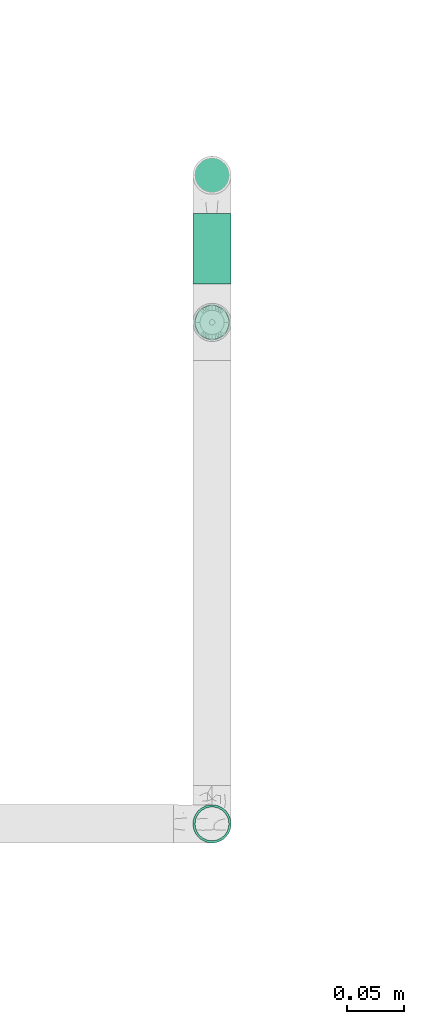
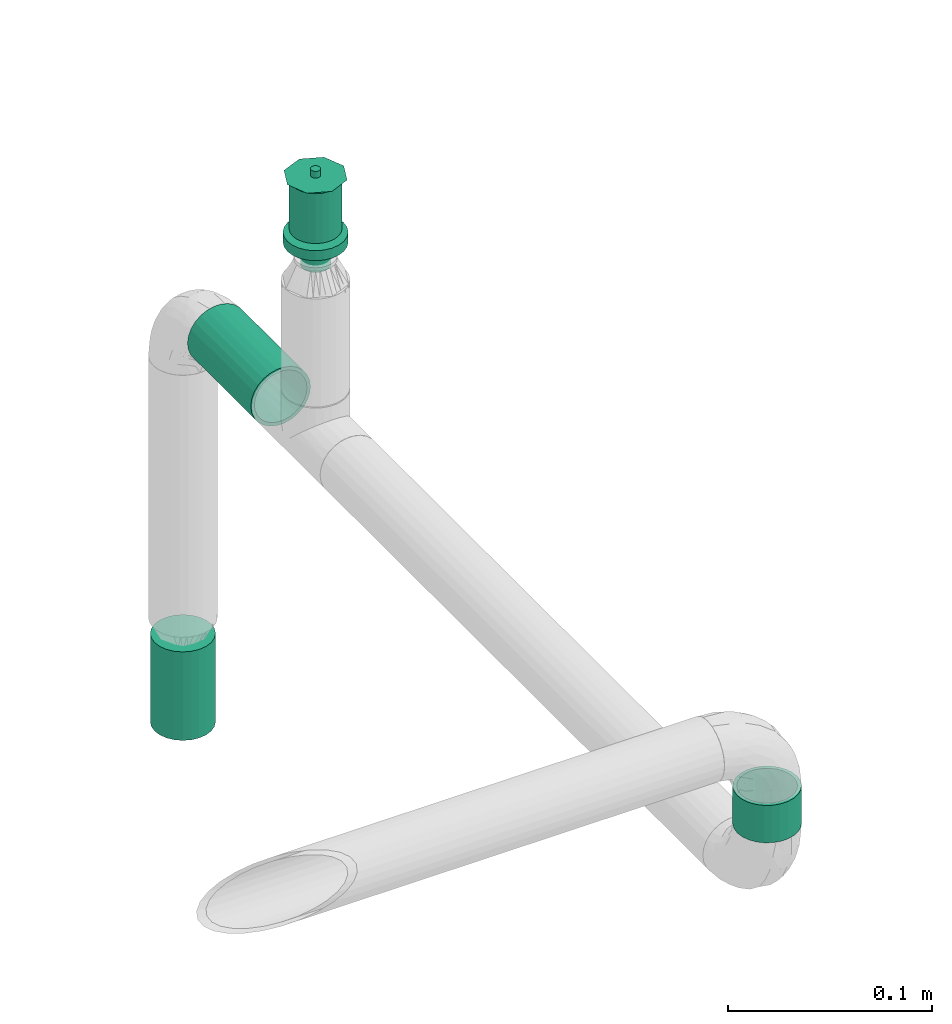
# One storey, part 116 of 157: 2 flow segments, 2 flow terminals.
"""IFC2X3 building model written with IfcOpenShell, lengths in millimetres."""

import ifcopenshell
import ifcopenshell.guid

model = None  # the IFC model being written
_history = None  # IfcOwnerHistory: only IFC2X3 demands one
_inside = {}  # id of a spatial element -> (the spatial element, [elements in it])
_under = {}  # id of a project, library or spatial element -> (it, [spatial elements below it])
_declared = {}  # id of a project -> (the project, [libraries it declares])
_typed = {}  # id of a type object -> (the type object, [elements of that type])
_made_of = {}  # id of a material, layer set ... -> (it, [elements and type objects made of it])


def new_model(schema):
    """Start an empty IFC model of exactly this schema.

    Asked for "IFC4X3", IfcOpenShell would pick the latest addendum, in which some entities
    have other attributes; the version numbers below select the first issue.
    IFC2X3 requires an IfcOwnerHistory on every rooted entity: one is made here for all.
    """
    global model, _history
    if schema == "IFC4X3":
        model = ifcopenshell.file(schema_version=(4, 3, 0, 0))
    else:
        model = ifcopenshell.file(schema=schema)
    _inside.clear()
    _under.clear()
    _declared.clear()
    _typed.clear()
    _made_of.clear()
    _history = None
    if model.schema == "IFC2X3":
        org = make("IfcOrganization", Name="unknown")
        user = make(
            "IfcPersonAndOrganization",
            ThePerson=make("IfcPerson", FamilyName="unknown"),
            TheOrganization=org,
        )
        app = make(
            "IfcApplication",
            ApplicationDeveloper=org,
            Version="unknown",
            ApplicationFullName="unknown",
            ApplicationIdentifier="unknown",
        )
        _history = make(
            "IfcOwnerHistory",
            OwningUser=user,
            OwningApplication=app,
            ChangeAction="ADDED",
            CreationDate=0,
        )
    return model


def make(cls, **values):
    """One entity of the class cls with the attributes given. An attribute that is None is left unset."""
    return model.create_entity(
        cls, **{name: value for name, value in values.items() if value is not None}
    )


def entity(cls, *values):
    """Any entity or typed value of the class cls, its attributes in the order of the schema. None: left unset."""
    e = model.create_entity(cls)
    for i, value in enumerate(values):
        if value is not None:
            e[i] = value
    return e


def rooted(cls, **values):
    """An entity with a GlobalId (a new one), such as an element, a storey or a relation."""
    return make(cls, GlobalId=ifcopenshell.guid.new(), OwnerHistory=_history, **values)


def si_unit(unit_type, name, prefix=None):
    """IfcSIUnit, for example si_unit("LENGTHUNIT", "METRE", prefix="MILLI")."""
    return make("IfcSIUnit", UnitType=unit_type, Prefix=prefix, Name=name)


def converted_unit(unit_type, name, factor, base, dimensions=None, offset=None):
    """IfcConversionBasedUnit, such as the inch: factor (a typed value) times the base unit."""
    return make(
        "IfcConversionBasedUnit"
        if offset is None
        else "IfcConversionBasedUnitWithOffset",
        ConversionOffset=offset,
        Dimensions=None
        if dimensions is None
        else entity("IfcDimensionalExponents", *dimensions),
        UnitType=unit_type,
        Name=name,
        ConversionFactor=make(
            "IfcMeasureWithUnit", ValueComponent=factor, UnitComponent=base
        ),
    )


def derived_unit(unit_type, elements):
    """IfcDerivedUnit: a product of units, each with its exponent."""
    return make(
        "IfcDerivedUnit",
        Elements=[
            make("IfcDerivedUnitElement", Unit=unit, Exponent=power)
            for unit, power in elements
        ],
        UnitType=unit_type,
    )


def assignment(units):
    """IfcUnitAssignment: the units of a project."""
    return None if units is None else make("IfcUnitAssignment", Units=units)


def point(xyz):
    """IfcCartesianPoint."""
    return None if xyz is None else make("IfcCartesianPoint", Coordinates=xyz)


def direction(xyz):
    """IfcDirection."""
    return None if xyz is None else make("IfcDirection", DirectionRatios=xyz)


def frame(location, z_axis=None, x_axis=None):
    """IfcAxis2Placement3D, a coordinate frame: its origin and axes. An axis left out is left unset."""
    return make(
        "IfcAxis2Placement3D",
        Location=point(location),
        Axis=direction(z_axis),
        RefDirection=direction(x_axis),
    )


def frame_2d(location, x_axis=None):
    """IfcAxis2Placement2D, a coordinate frame in the plane: its origin and x axis."""
    return make(
        "IfcAxis2Placement2D", Location=point(location), RefDirection=direction(x_axis)
    )


def origin_with_axes():
    """The frame at (0, 0, 0) with the z axis (0, 0, 1) and the x axis (1, 0, 0) written out."""
    return frame((0.0, 0.0, 0.0), z_axis=(0.0, 0.0, 1.0), x_axis=(1.0, 0.0, 0.0))


def origin_2d_with_axis():
    """The frame at (0, 0) in the plane with the x axis (1, 0) written out."""
    return frame_2d((0.0, 0.0), x_axis=(1.0, 0.0))


def place(relative_to, where):
    """IfcLocalPlacement: puts the frame where relative to a parent placement (None: the world)."""
    return make(
        "IfcLocalPlacement", PlacementRelTo=relative_to, RelativePlacement=where
    )


def context(
    kind, dimensions, precision=None, world=None, true_north=None, identifier=None
):
    """IfcGeometricRepresentationContext, for example the 3D "Model" context."""
    return make(
        "IfcGeometricRepresentationContext",
        ContextIdentifier=identifier,
        ContextType=kind,
        CoordinateSpaceDimension=dimensions,
        Precision=precision,
        WorldCoordinateSystem=world,
        TrueNorth=true_north,
    )


def subcontext(parent, identifier, kind, view, scale=None):
    """IfcGeometricRepresentationSubContext, for example "Body" below "Model"."""
    return make(
        "IfcGeometricRepresentationSubContext",
        ContextIdentifier=identifier,
        ContextType=kind,
        ParentContext=parent,
        TargetScale=scale,
        TargetView=view,
    )


def project(units=None, contexts=None):
    """IfcProject with its units and contexts."""
    return rooted(
        "IfcProject",
        Name="project",
        RepresentationContexts=contexts,
        UnitsInContext=assignment(units),
    )


def spatial(cls, under=None, at=None, **own):
    """A site, building, storey or space (cls), placed at a placement, below another one or the project."""
    s = rooted(cls, ObjectPlacement=at, **own)
    if under is not None:
        _under.setdefault(under.id(), (under, []))[1].append(s)
    return s


def profile(cls, at=None, kind="AREA", **sizes):
    """A parametric profile (cls). Its sizes go by their IFC names, for example OverallWidth=200.0."""
    return make(cls, ProfileType=kind, Position=at, **sizes)


def hollow_circle(**sizes):
    """IfcCircleHollowProfileDef."""
    return profile("IfcCircleHollowProfileDef", **sizes)


def extrude(swept, where, along, depth):
    """IfcExtrudedAreaSolid: the profile swept, set in the frame where, extruded along a direction by depth."""
    return make(
        "IfcExtrudedAreaSolid",
        SweptArea=swept,
        Position=where,
        ExtrudedDirection=direction(along),
        Depth=depth,
    )


def faces_of(points, faces, orient=None, outer=None):
    """IfcFace entities. A face is a list of loops; a loop is a list of indices into points, from 0.

    orient and outer hold one flag for each loop. By default every Orientation is true, the
    first loop of a face is its IfcFaceOuterBound and the others are IfcFaceBound.
    """
    made = []
    for i, loops in enumerate(faces):
        bounds = []
        for j, loop in enumerate(loops):
            is_outer = j == 0 if outer is None else outer[i][j]
            bounds.append(
                make(
                    "IfcFaceOuterBound" if is_outer else "IfcFaceBound",
                    Bound=make("IfcPolyLoop", Polygon=[points[k] for k in loop]),
                    Orientation=True if orient is None else orient[i][j],
                )
            )
        made.append(make("IfcFace", Bounds=bounds))
    return made


def open_shell(faces, orient=None, outer=None):
    """The faces of one IfcOpenShell. surface_model builds it on its shared points."""
    return ("IfcOpenShell", faces, orient, outer)


def surface_model(cls, points, shells):
    """IfcFaceBasedSurfaceModel or IfcShellBasedSurfaceModel (cls): surfaces that need not close."""
    shared = [point(p) for p in points]
    made = [make(c, CfsFaces=faces_of(shared, fs, o, b)) for c, fs, o, b in shells]
    if cls == "IfcFaceBasedSurfaceModel":
        return make(cls, FbsmFaces=made)
    return make(cls, SbsmBoundary=made)


def shape(context_of_items, identifier, shape_type, items):
    """IfcShapeRepresentation: the items that make up one representation, for example the "Body"."""
    return make(
        "IfcShapeRepresentation",
        ContextOfItems=context_of_items,
        RepresentationIdentifier=identifier,
        RepresentationType=shape_type,
        Items=items,
    )


def source(mapping_origin, context_of_items, identifier, shape_type, items):
    """IfcRepresentationMap: a shape defined once, which mapped items show again and again."""
    return make(
        "IfcRepresentationMap",
        MappingOrigin=mapping_origin,
        MappedRepresentation=shape(context_of_items, identifier, shape_type, items),
    )


def transform(
    local_origin,
    x_axis=None,
    y_axis=None,
    z_axis=None,
    scale=None,
    scale2=None,
    scale3=None,
    uniform=True,
):
    """IfcCartesianTransformationOperator3D, or its non-uniform kind. x_axis, y_axis, z_axis: its Axis1, 2, 3."""
    if uniform:
        return make(
            "IfcCartesianTransformationOperator3D",
            Axis1=direction(x_axis),
            Axis2=direction(y_axis),
            LocalOrigin=point(local_origin),
            Scale=scale,
            Axis3=direction(z_axis),
        )
    return make(
        "IfcCartesianTransformationOperator3DnonUniform",
        Axis1=direction(x_axis),
        Axis2=direction(y_axis),
        LocalOrigin=point(local_origin),
        Scale=scale,
        Axis3=direction(z_axis),
        Scale2=scale2,
        Scale3=scale3,
    )


def mapped(mapping_source, mapping_target):
    """IfcMappedItem: shows the shape of a source again, moved by a transform."""
    return make(
        "IfcMappedItem", MappingSource=mapping_source, MappingTarget=mapping_target
    )


def made_of(thing, what):
    """Note that an element or type object is made of a material, layer set ...; save() writes the relation."""
    if what is not None:
        _made_of.setdefault(what.id(), (what, []))[1].append(thing)
    return thing


def type_object(cls, material=None, **own):
    """A type object (cls), such as IfcWallType, which elements share."""
    return made_of(rooted(cls, **own), material)


def element(
    cls,
    number,
    at=None,
    inside=None,
    cuts=None,
    type_object=None,
    material=None,
    context=None,
    identifier="Body",
    shape_type=None,
    held_by="IfcProductDefinitionShape",
    body=None,
    shapes=None,
    **own,
):
    """One element of the class cls, such as IfcWall. Its Tag is "e" and its number.

    at: its placement. inside: the storey or other place that contains it. cuts: it is an
    opening in that element (IfcRelVoidsElement). A single representation is given by context,
    identifier, shape_type and body (its items); several are given by shapes. held_by: the class
    of the entity that holds the representations. save() writes the other relations.
    """
    e = rooted(cls, Tag="e%d" % number, ObjectPlacement=at, **own)
    if body is not None:
        shapes = [shape(context, identifier, shape_type, body)]
    if shapes is not None:
        e.Representation = make(held_by, Representations=shapes)
    if inside is not None:
        _inside.setdefault(inside.id(), (inside, []))[1].append(e)
    if cuts is not None:
        rooted(
            "IfcRelVoidsElement", RelatingBuildingElement=cuts, RelatedOpeningElement=e
        )
    if type_object is not None:
        _typed.setdefault(type_object.id(), (type_object, []))[1].append(e)
    return made_of(e, material)


def aggregate(whole, parts):
    """IfcRelAggregates: a whole, such as a stair, and the parts it consists of."""
    return rooted("IfcRelAggregates", RelatingObject=whole, RelatedObjects=parts)


def save(model, path):
    """Write the relations noted so far, then the file.

    IfcRelAggregates (storeys below a building ...), IfcRelContainedInSpatialStructure (elements
    in a storey), IfcRelDefinesByType, IfcRelAssociatesMaterial and IfcRelDeclares: one each for
    every whole, place, type object, material and project.
    """
    for whole, parts in _under.values():
        aggregate(whole, parts)
    for where, things in _inside.values():
        rooted(
            "IfcRelContainedInSpatialStructure",
            RelatedElements=things,
            RelatingStructure=where,
        )
    for kind, things in _typed.values():
        rooted("IfcRelDefinesByType", RelatedObjects=things, RelatingType=kind)
    for what, things in _made_of.values():
        rooted("IfcRelAssociatesMaterial", RelatedObjects=things, RelatingMaterial=what)
    for by, libraries in _declared.values():
        rooted("IfcRelDeclares", RelatingContext=by, RelatedDefinitions=libraries)
    model.write(path)


model = new_model("IFC2X3")

# Units and contexts
model_context = context("Model", 3, precision=0.01, world=frame((0.0, 4.29681676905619e-09, 0.0)), true_north=direction((4.01073788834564e-13, 1.0)))
plan_context = context("Plan", 3, precision=0.01, world=frame((0.0, 4.29681676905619e-09, 0.0)), true_north=direction((4.01073788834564e-13, 1.0)))
body_context = subcontext(model_context, "Body", "Model", "MODEL_VIEW")
ifc_project = project(units=[converted_unit("PLANEANGLEUNIT", "DEGREE", entity("IfcPositiveLengthMeasure", 0.0174532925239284), si_unit("PLANEANGLEUNIT", "RADIAN"), dimensions=[0, 0, 0, 0, 0, 0, 0]), si_unit("AREAUNIT", "SQUARE_METRE"), si_unit("LENGTHUNIT", "METRE", prefix="MILLI"), si_unit("MASSUNIT", "GRAM", prefix="KILO"), si_unit("POWERUNIT", "WATT"), si_unit("PRESSUREUNIT", "PASCAL"), si_unit("FORCEUNIT", "NEWTON", prefix="KILO"), si_unit("ELECTRICCURRENTUNIT", "AMPERE"), si_unit("THERMODYNAMICTEMPERATUREUNIT", "DEGREE_CELSIUS"), si_unit("TIMEUNIT", "SECOND"), si_unit("VOLUMEUNIT", "CUBIC_METRE"), derived_unit("LINEARVELOCITYUNIT", [(si_unit("LENGTHUNIT", "METRE"), 1), (si_unit("TIMEUNIT", "SECOND"), -1)]), derived_unit("VOLUMETRICFLOWRATEUNIT", [(si_unit("VOLUMEUNIT", "CUBIC_METRE"), 1), (si_unit("TIMEUNIT", "SECOND"), -1)]), derived_unit("THERMALTRANSMITTANCEUNIT", [(si_unit("POWERUNIT", "WATT"), 1), (si_unit("THERMODYNAMICTEMPERATUREUNIT", "KELVIN"), -1), (si_unit("AREAUNIT", "SQUARE_METRE"), -1)])], contexts=[model_context, plan_context])

# Site, building, storey
site_placement = place(None, frame((0.0, -4.29681676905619e-09, 0.0), z_axis=(0.0, 0.0, 1.0), x_axis=(1.0, 0.0, 0.0)))
site = spatial("IfcSite", under=ifc_project, at=site_placement, CompositionType="ELEMENT")
building_placement = place(site_placement, frame((0.0, 4.29681676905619e-09, 0.0), z_axis=(0.0, 0.0, 1.0), x_axis=(1.0, 0.0, 0.0)))
building = spatial("IfcBuilding", under=site, at=building_placement, Name="mc-building", CompositionType="ELEMENT")
storey_placement = place(building_placement, frame((0.0, 0.0, 204000.0), z_axis=(0.0, 0.0, 1.0), x_axis=(1.0, 0.0, 0.0)))
storey = spatial("IfcBuildingStorey", under=building, at=storey_placement, Name="Nivå D", CompositionType="ELEMENT", Elevation=204000.0)

# Flow segments
pipe_segment_type = type_object("IfcPipeSegmentType", Name="Stålrør normaltykke", PredefinedType="RIGIDSEGMENT")
shared_shape_1 = source(origin_with_axes(), body_context, "Body", "SweptSolid", [
    extrude(hollow_circle(Radius=16.9, WallThickness=2.0, at=origin_2d_with_axis()), frame((0.0, 0.0, 0.0), z_axis=(1.0, 0.0, 0.0), x_axis=(0.0, 1.0, 0.0)), (0.0, 0.0, 1.0), 22.4),
])
flow_segment_1_placement = place(storey_placement, frame((524499.91685, 416026.97024, 2656.20000000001), z_axis=(0.0, 1.0, 0.0), x_axis=(0.0, 0.0, -1.0)))
element("IfcFlowSegment", 1, at=flow_segment_1_placement, inside=storey, type_object=pipe_segment_type, Name="Stålrør normaltykke", context=body_context, shape_type="MappedRepresentation", body=[
    mapped(shared_shape_1, transform((0.0, 0.0, 0.0), scale=1.0)),
])
shared_shape_2 = source(origin_with_axes(), body_context, "Body", "SweptSolid", [
    extrude(hollow_circle(Radius=16.9, WallThickness=2.0, at=origin_2d_with_axis()), frame((0.0, 0.0, 0.0), z_axis=(1.0, 0.0, 0.0), x_axis=(0.0, 1.0, 0.0)), (0.0, 0.0, 1.0), 62.1),
])
flow_segment_2_placement = place(storey_placement, frame((524499.91685, 416566.2, 2600.0), z_axis=(0.0, 0.0, 1.0), x_axis=(0.0, -1.0, 0.0)))
element("IfcFlowSegment", 2, at=flow_segment_2_placement, inside=storey, type_object=pipe_segment_type, Name="Stålrør normaltykke", context=body_context, shape_type="MappedRepresentation", body=[
    mapped(shared_shape_2, transform((0.0, 0.0, 0.0), scale=1.0)),
])

# Flow terminals
fire_suppression_terminal_type_1 = type_object("IfcFireSuppressionTerminalType", Name="SP-15-K80-68DGR-STD-HIMLING", PredefinedType="NOTDEFINED")
shared_shape_3 = source(origin_with_axes(), body_context, "Body", "SurfaceModel", [
    surface_model("IfcShellBasedSurfaceModel", [(4.1411, -15.45481, 53.0), (8.0, -13.85641, 53.0), (11.31371, -11.31371, 53.0), (-8.0, -13.85641, 53.0), (15.45481, -4.1411, 53.0), (16.0, 0.0, 53.0), (13.85641, -8.0, 53.0), (0.0, -16.0, 53.0), (-4.1411, -15.45481, 53.0), (-13.85641, -8.0, 53.0), (-11.31371, -11.31371, 53.0), (-15.45481, -4.1411, 53.0), (15.45481, 4.1411, 53.0), (13.85641, 8.0, 53.0), (11.31371, 11.31371, 53.0), (-4.1411, 15.45481, 53.0), (8.0, 13.85641, 53.0), (4.1411, 15.45481, 53.0), (0.0, 16.0, 53.0), (-13.85641, 8.0, 53.0), (-15.45481, 4.1411, 53.0), (-16.0, 0.0, 53.0), (-11.31371, 11.31371, 53.0), (-8.0, 13.85641, 53.0), (0.0, 16.0, 0.0), (4.1411, 15.45481, 0.0), (8.0, 13.85641, 0.0), (-4.1411, 15.45481, 0.0), (11.31371, 11.31371, 0.0), (13.85641, 8.0, 0.0), (15.45481, 4.1411, 0.0), (-15.45481, -4.1411, 0.0), (-11.31371, 11.31371, 0.0), (-8.0, 13.85641, 0.0), (-13.85641, 8.0, 0.0), (-15.45481, 4.1411, 0.0), (-16.0, 0.0, 0.0), (4.1411, -15.45481, 0.0), (16.0, 0.0, 0.0), (15.45481, -4.1411, 0.0), (13.85641, -8.0, 0.0), (11.31371, -11.31371, 0.0), (8.0, -13.85641, 0.0), (-8.0, -13.85641, 0.0), (-13.85641, -8.0, 0.0), (-11.31371, -11.31371, 0.0), (0.0, -16.0, 0.0), (-4.1411, -15.45481, 0.0)], [open_shell([[[0, 1, 2]], [[3, 0, 2]], [[4, 5, 2]], [[4, 2, 6]], [[3, 2, 5]], [[7, 3, 8]], [[7, 0, 3]], [[3, 9, 10]], [[9, 3, 11]], [[5, 11, 3]], [[5, 12, 11]], [[12, 13, 14]], [[15, 12, 14]], [[16, 17, 18]], [[14, 16, 15]], [[18, 15, 16]], [[11, 19, 20]], [[21, 11, 20]], [[22, 15, 23]], [[15, 22, 19]], [[19, 11, 15]], [[11, 12, 15]], [[24, 25, 26]], [[27, 24, 26]], [[28, 29, 30]], [[27, 26, 28]], [[27, 28, 31]], [[27, 32, 33]], [[32, 27, 34]], [[34, 31, 35]], [[31, 34, 27]], [[35, 31, 36]], [[28, 30, 31]], [[37, 38, 39]], [[37, 39, 40]], [[41, 42, 37]], [[41, 37, 40]], [[38, 37, 43]], [[44, 43, 45]], [[43, 44, 31]], [[43, 46, 47]], [[43, 31, 38]], [[37, 46, 43]], [[38, 31, 30]], [[11, 31, 44]], [[45, 9, 44]], [[3, 43, 47]], [[45, 43, 10]], [[8, 47, 46]], [[31, 21, 36]], [[31, 11, 21]], [[44, 9, 11]], [[45, 10, 9]], [[3, 10, 43]], [[47, 8, 3]], [[46, 7, 8]], [[0, 37, 42]], [[41, 1, 42]], [[6, 40, 39]], [[41, 40, 2]], [[4, 39, 38]], [[37, 0, 7]], [[42, 1, 0]], [[41, 2, 1]], [[40, 6, 2]], [[4, 6, 39]], [[38, 5, 4]], [[37, 7, 46]], [[12, 38, 30]], [[13, 30, 29]], [[16, 26, 25]], [[17, 25, 24]], [[30, 13, 12]], [[12, 5, 38]], [[28, 14, 13]], [[28, 26, 14]], [[14, 26, 16]], [[25, 17, 16]], [[28, 13, 29]], [[24, 18, 17]], [[15, 27, 33]], [[32, 23, 33]], [[19, 34, 35]], [[32, 34, 22]], [[20, 35, 36]], [[27, 15, 18]], [[33, 23, 15]], [[32, 22, 23]], [[34, 19, 22]], [[20, 19, 35]], [[36, 21, 20]], [[27, 18, 24]]])]),
])
flow_terminal_1_placement = place(storey_placement, frame((524499.93275, 416600.0, 2400.0), z_axis=(0.0, 0.0, -1.0), x_axis=(1.0, 0.0, 0.0)))
element("IfcFlowTerminal", 3, at=flow_terminal_1_placement, inside=storey, type_object=fire_suppression_terminal_type_1, Name="SP-15-K80-68DGR-STD-HIMLING", context=body_context, shape_type="MappedRepresentation", body=[
    mapped(shared_shape_3, transform((0.0, 0.0, 0.0), scale=1.0)),
])
fire_suppression_terminal_type_2 = type_object("IfcFireSuppressionTerminalType", Name="68DGR-STD-STÅENDE", PredefinedType="NOTDEFINED")
shared_shape_4 = source(origin_with_axes(), body_context, "Body", "SurfaceModel", [
    surface_model("IfcShellBasedSurfaceModel", [(3.36465, -12.55704, 51.0), (6.5, -11.25833, 51.0), (9.19239, -9.19239, 51.0), (12.55704, -3.36465, 51.0), (-11.25833, -6.5, 51.0), (11.25833, -6.5, 51.0), (-13.0, 0.0, 51.0), (0.0, -13.0, 51.0), (-6.5, -11.25833, 51.0), (-3.36465, -12.55704, 51.0), (-9.19239, -9.19239, 51.0), (-12.55704, -3.36465, 51.0), (13.0, 0.0, 51.0), (12.55704, 3.36465, 51.0), (11.25833, 6.5, 51.0), (9.19239, 9.19239, 51.0), (6.5, 11.25833, 51.0), (3.36465, 12.55704, 51.0), (0.0, 13.0, 51.0), (-3.36465, 12.55704, 51.0), (-12.55704, 3.36465, 51.0), (-9.19239, 9.19239, 51.0), (-11.25833, 6.5, 51.0), (-6.5, 11.25833, 51.0), (0.0, 13.0, 21.14766), (3.36465, 12.55704, 21.14766), (6.5, 11.25833, 21.14766), (-3.36465, 12.55704, 21.14766), (9.19239, 9.19239, 21.14766), (11.25833, 6.5, 21.14766), (12.55704, 3.36465, 21.14766), (-12.55704, 3.36465, 21.14766), (-11.25833, -6.5, 21.14766), (-9.19239, 9.19239, 21.14766), (-6.5, 11.25833, 21.14766), (-11.25833, 6.5, 21.14766), (-13.0, 0.0, 21.14766), (12.55704, -3.36465, 21.14766), (9.19239, -9.19239, 21.14766), (11.25833, -6.5, 21.14766), (6.5, -11.25833, 21.14766), (3.36465, -12.55704, 21.14766), (-6.5, -11.25833, 21.14766), (-9.19239, -9.19239, 21.14766), (-12.55704, -3.36465, 21.14766), (0.0, -13.0, 21.14766), (-3.36465, -12.55704, 21.14766), (13.0, 0.0, 21.14766), (7.24444, -1.94114, 0.1), (1.94114, -7.24444, 0.1), (3.75, -6.49519, 0.1), (5.3033, -5.3033, 0.1), (-5.3033, -5.3033, 0.1), (6.49519, -3.75, 0.1), (5.3033, 5.3033, 0.1), (0.0, -7.5, 0.1), (-3.75, -6.49519, 0.1), (-1.94114, -7.24444, 0.1), (-7.24444, -1.94114, 0.1), (-6.49519, -3.75, 0.1), (-7.24444, 1.94114, 0.1), (7.5, 0.0, 0.1), (6.49519, 3.75, 0.1), (-6.49519, 3.75, 0.1), (1.94114, 7.24444, 0.1), (0.0, 7.5, 0.1), (3.75, 6.49519, 0.1), (-7.5, 0.0, 0.1), (-5.3033, 5.3033, 0.1), (-1.94114, 7.24444, 0.1), (-3.75, 6.49519, 0.1), (7.24444, 1.94114, 0.1), (1.94114, 7.24444, -0.1), (-6.49519, 3.75, -0.1), (0.0, 7.5, -0.1), (5.3033, 5.3033, -0.1), (3.75, 6.49519, -0.1), (6.49519, 3.75, -0.1), (7.24444, 1.94114, -0.1), (-1.94114, 7.24444, -0.1), (-5.3033, 5.3033, -0.1), (-3.75, 6.49519, -0.1), (-7.24444, 1.94114, -0.1), (-7.24444, -1.94114, -0.1), (-7.5, 0.0, -0.1), (7.5, 0.0, -0.1), (7.24444, -1.94114, -0.1), (-5.3033, -5.3033, -0.1), (1.94114, -7.24444, -0.1), (6.49519, -3.75, -0.1), (5.3033, -5.3033, -0.1), (3.75, -6.49519, -0.1), (-6.49519, -3.75, -0.1), (-3.75, -6.49519, -0.1), (0.0, -7.5, -0.1), (-1.94114, -7.24444, -0.1), (0.0, -2.5, 51.0), (-2.5, 0.0, 51.0), (0.0, 2.5, 51.0), (2.5, 0.0, 51.0), (0.0, -16.0, 53.0), (11.31371, -11.31371, 53.0), (-11.31371, -11.31371, 53.0), (-16.0, 0.0, 53.0), (16.0, 0.0, 53.0), (11.31371, 11.31371, 53.0), (0.0, 16.0, 53.0), (-11.31371, 11.31371, 53.0), (1.25, -2.16506, 57.0), (0.0, -2.5, 57.0), (0.64705, -2.41481, 57.0), (2.41481, -0.64705, 57.0), (1.76777, -1.76777, 57.0), (-2.41481, -0.64705, 57.0), (-2.5, 0.0, 57.0), (2.16506, -1.25, 57.0), (-1.25, -2.16506, 57.0), (-0.64705, -2.41481, 57.0), (-1.76777, -1.76777, 57.0), (-2.16506, -1.25, 57.0), (2.5, 0.0, 57.0), (2.41481, 0.64705, 57.0), (2.16506, 1.25, 57.0), (1.76777, 1.76777, 57.0), (0.64705, 2.41481, 57.0), (1.25, 2.16506, 57.0), (-1.76777, 1.76777, 57.0), (0.0, 2.5, 57.0), (-2.16506, 1.25, 57.0), (-2.41481, 0.64705, 57.0), (-0.64705, 2.41481, 57.0), (-1.25, 2.16506, 57.0), (1.25, 2.16506, 51.0), (1.76777, 1.76777, 51.0), (1.15, 1.99186, 51.0), (0.59528, 2.22163, 51.0), (0.64705, 2.41481, 51.0), (0.0, 2.3, 51.0), (1.62635, 1.62635, 51.0), (2.41481, 0.64705, 51.0), (2.3, 0.0, 51.0), (2.22163, 0.59528, 51.0), (2.16506, 1.25, 51.0), (1.99186, 1.15, 51.0), (-0.59528, 2.22163, 51.0), (-0.64705, 2.41481, 51.0), (-1.15, 1.99186, 51.0), (-1.76777, 1.76777, 51.0), (-1.25, 2.16506, 51.0), (-1.62635, 1.62635, 51.0), (-1.99186, 1.15, 51.0), (-2.16506, 1.25, 51.0), (-2.22163, 0.59528, 51.0), (-2.41481, 0.64705, 51.0), (-2.3, 0.0, 51.0), (2.41481, -0.64705, 51.0), (2.22163, -0.59528, 51.0), (1.99186, -1.15, 51.0), (2.16506, -1.25, 51.0), (1.62635, -1.62635, 51.0), (1.76777, -1.76777, 51.0), (1.25, -2.16506, 51.0), (1.15, -1.99186, 51.0), (0.59528, -2.22163, 51.0), (0.64705, -2.41481, 51.0), (0.0, -2.3, 51.0), (-2.16506, -1.25, 51.0), (-1.99186, -1.15, 51.0), (-1.76777, -1.76777, 51.0), (-1.62635, -1.62635, 51.0), (-2.41481, -0.64705, 51.0), (-2.22163, -0.59528, 51.0), (-0.59528, -2.22163, 51.0), (-0.64705, -2.41481, 51.0), (-1.15, -1.99186, 51.0), (-1.25, -2.16506, 51.0), (1.62635, -1.62635, 56.8), (1.15, -1.99186, 56.8), (0.59528, -2.22163, 56.8), (0.0, -2.3, 56.8), (2.22163, 0.59528, 56.8), (1.99186, -1.15, 56.8), (2.22163, -0.59528, 56.8), (-0.59528, -2.22163, 56.8), (-1.15, -1.99186, 56.8), (-1.62635, -1.62635, 56.8), (-1.99186, -1.15, 56.8), (-2.22163, -0.59528, 56.8), (-1.99186, 1.15, 56.8), (2.3, 0.0, 56.8), (1.62635, 1.62635, 56.8), (1.99186, 1.15, 56.8), (1.15, 1.99186, 56.8), (0.0, 2.3, 56.8), (0.59528, 2.22163, 56.8), (-2.22163, 0.59528, 56.8), (-2.3, 0.0, 56.8), (-1.15, 1.99186, 56.8), (-0.59528, 2.22163, 56.8), (-1.62635, 1.62635, 56.8), (4.1411, -15.45481, 19.0), (8.0, -13.85641, 19.0), (11.31371, -11.31371, 19.0), (-8.0, -13.85641, 19.0), (15.45481, -4.1411, 19.0), (16.0, 0.0, 19.0), (13.85641, -8.0, 19.0), (0.0, -16.0, 19.0), (-4.1411, -15.45481, 19.0), (-13.85641, -8.0, 19.0), (-11.31371, -11.31371, 19.0), (-15.45481, -4.1411, 19.0), (15.45481, 4.1411, 19.0), (13.85641, 8.0, 19.0), (11.31371, 11.31371, 19.0), (-4.1411, 15.45481, 19.0), (8.0, 13.85641, 19.0), (4.1411, 15.45481, 19.0), (0.0, 16.0, 19.0), (-13.85641, 8.0, 19.0), (-15.45481, 4.1411, 19.0), (-16.0, 0.0, 19.0), (-11.31371, 11.31371, 19.0), (-8.0, 13.85641, 19.0), (0.0, 16.0, 13.0), (4.1411, 15.45481, 13.0), (8.0, 13.85641, 13.0), (-4.1411, 15.45481, 13.0), (11.31371, 11.31371, 13.0), (13.85641, 8.0, 13.0), (15.45481, 4.1411, 13.0), (-15.45481, -4.1411, 13.0), (-11.31371, 11.31371, 13.0), (-8.0, 13.85641, 13.0), (-13.85641, 8.0, 13.0), (-15.45481, 4.1411, 13.0), (-16.0, 0.0, 13.0), (4.1411, -15.45481, 13.0), (16.0, 0.0, 13.0), (15.45481, -4.1411, 13.0), (13.85641, -8.0, 13.0), (11.31371, -11.31371, 13.0), (8.0, -13.85641, 13.0), (-8.0, -13.85641, 13.0), (-13.85641, -8.0, 13.0), (-11.31371, -11.31371, 13.0), (0.0, -16.0, 13.0), (-4.1411, -15.45481, 13.0), (7.24444, -1.94114, 13.0), (1.94114, -7.24444, 13.0), (3.75, -6.49519, 13.0), (5.3033, -5.3033, 13.0), (-5.3033, -5.3033, 13.0), (6.49519, -3.75, 13.0), (5.3033, 5.3033, 13.0), (0.0, -7.5, 13.0), (-3.75, -6.49519, 13.0), (-1.94114, -7.24444, 13.0), (-7.24444, -1.94114, 13.0), (-6.49519, -3.75, 13.0), (-7.24444, 1.94114, 13.0), (7.5, 0.0, 13.0), (6.49519, 3.75, 13.0), (-6.49519, 3.75, 13.0), (1.94114, 7.24444, 13.0), (0.0, 7.5, 13.0), (3.75, 6.49519, 13.0), (-7.5, 0.0, 13.0), (-5.3033, 5.3033, 13.0), (-1.94114, 7.24444, 13.0), (-3.75, 6.49519, 13.0), (7.24444, 1.94114, 13.0), (3.75, 6.49519, 0.0), (5.3033, 5.3033, 0.0), (3.65, 6.32199, 0.0), (1.88938, 7.05126, 0.0), (0.0, 7.3, 0.0), (1.94114, 7.24444, 0.0), (0.0, 7.5, 0.0), (5.16188, 5.16188, 0.0), (7.24444, 1.94114, 0.0), (7.3, 0.0, 0.0), (7.05126, 1.88938, 0.0), (7.5, 0.0, 0.0), (6.49519, 3.75, 0.0), (6.32199, 3.65, 0.0), (-1.88938, 7.05126, 0.0), (-1.94114, 7.24444, 0.0), (-3.65, 6.32199, 0.0), (-5.3033, 5.3033, 0.0), (-3.75, 6.49519, 0.0), (-5.16188, 5.16188, 0.0), (-6.32199, 3.65, 0.0), (-6.49519, 3.75, 0.0), (-7.05126, 1.88938, 0.0), (-7.24444, 1.94114, 0.0), (-7.3, 0.0, 0.0), (-7.5, 0.0, 0.0), (7.24444, -1.94114, 0.0), (7.05126, -1.88938, 0.0), (6.32199, -3.65, 0.0), (6.49519, -3.75, 0.0), (5.16188, -5.16188, 0.0), (5.3033, -5.3033, 0.0), (3.75, -6.49519, 0.0), (3.65, -6.32199, 0.0), (1.88938, -7.05126, 0.0), (1.94114, -7.24444, 0.0), (0.0, -7.3, 0.0), (0.0, -7.5, 0.0), (-6.49519, -3.75, 0.0), (-6.32199, -3.65, 0.0), (-5.3033, -5.3033, 0.0), (-5.16188, -5.16188, 0.0), (-7.24444, -1.94114, 0.0), (-7.05126, -1.88938, 0.0), (-1.88938, -7.05126, 0.0), (-1.94114, -7.24444, 0.0), (-3.65, -6.32199, 0.0), (-3.75, -6.49519, 0.0), (1.88938, -7.05126, 12.8), (0.0, -7.3, 12.8), (3.65, -6.32199, 12.8), (5.16188, -5.16188, 12.8), (6.32199, -3.65, 12.8), (7.05126, 1.88938, 12.8), (7.05126, -1.88938, 12.8), (-5.16188, -5.16188, 12.8), (-1.88938, -7.05126, 12.8), (-3.65, -6.32199, 12.8), (-6.32199, -3.65, 12.8), (-7.05126, -1.88938, 12.8), (0.0, 7.3, 12.8), (7.3, 0.0, 12.8), (6.32199, 3.65, 12.8), (5.16188, 5.16188, 12.8), (3.65, 6.32199, 12.8), (1.88938, 7.05126, 12.8), (-6.32199, 3.65, 12.8), (-7.05126, 1.88938, 12.8), (-7.3, 0.0, 12.8), (-3.65, 6.32199, 12.8), (-1.88938, 7.05126, 12.8), (-5.16188, 5.16188, 12.8)], [open_shell([[[0, 1, 2]], [[0, 2, 3]], [[0, 3, 4]], [[3, 2, 5]], [[6, 4, 3]], [[7, 8, 9]], [[7, 0, 8]], [[8, 4, 10]], [[0, 4, 8]], [[4, 6, 11]], [[6, 3, 12]], [[13, 14, 15]], [[6, 13, 15]], [[16, 17, 18]], [[15, 16, 19]], [[18, 19, 16]], [[20, 21, 22]], [[20, 6, 15]], [[21, 19, 23]], [[19, 21, 20]], [[15, 19, 20]], [[13, 6, 12]], [[24, 25, 26]], [[27, 24, 26]], [[28, 29, 30]], [[26, 28, 31]], [[28, 32, 31]], [[27, 33, 34]], [[33, 27, 31]], [[33, 31, 35]], [[27, 26, 31]], [[31, 32, 36]], [[32, 28, 30]], [[32, 30, 37]], [[38, 37, 39]], [[38, 40, 41]], [[38, 41, 37]], [[32, 37, 41]], [[32, 42, 43]], [[44, 36, 32]], [[42, 45, 46]], [[42, 32, 41]], [[45, 42, 41]], [[30, 47, 37]], [[4, 32, 43]], [[8, 42, 46]], [[43, 42, 10]], [[9, 46, 45]], [[36, 11, 6]], [[11, 36, 44]], [[11, 44, 4]], [[44, 32, 4]], [[43, 10, 4]], [[8, 10, 42]], [[46, 9, 8]], [[45, 7, 9]], [[0, 41, 40]], [[38, 1, 40]], [[5, 39, 37]], [[38, 39, 2]], [[3, 37, 47]], [[41, 0, 7]], [[40, 1, 0]], [[38, 2, 1]], [[39, 5, 2]], [[3, 5, 37]], [[47, 12, 3]], [[41, 7, 45]], [[30, 13, 47]], [[29, 14, 30]], [[25, 24, 17]], [[15, 29, 28]], [[30, 14, 13]], [[13, 12, 47]], [[16, 26, 17]], [[16, 15, 28]], [[26, 25, 17]], [[15, 14, 29]], [[28, 26, 16]], [[24, 18, 17]], [[19, 27, 34]], [[33, 23, 34]], [[22, 35, 31]], [[33, 35, 21]], [[20, 31, 36]], [[27, 19, 18]], [[34, 23, 19]], [[33, 21, 23]], [[35, 22, 21]], [[20, 22, 31]], [[36, 6, 20]], [[27, 18, 24]], [[48, 49, 50]], [[48, 50, 51]], [[49, 48, 52]], [[48, 51, 53]], [[54, 52, 48]], [[55, 56, 57]], [[56, 55, 52]], [[52, 58, 59]], [[52, 55, 49]], [[52, 60, 58]], [[54, 48, 61]], [[62, 54, 61]], [[54, 63, 52]], [[64, 65, 54]], [[64, 54, 66]], [[63, 54, 65]], [[63, 60, 52]], [[67, 58, 60]], [[68, 69, 70]], [[69, 68, 63]], [[69, 63, 65]], [[71, 62, 61]], [[72, 73, 74]], [[75, 72, 76]], [[75, 77, 78]], [[72, 75, 73]], [[78, 73, 75]], [[79, 80, 81]], [[80, 79, 73]], [[74, 73, 79]], [[78, 82, 73]], [[82, 83, 84]], [[82, 78, 85]], [[86, 87, 85]], [[88, 86, 89]], [[90, 91, 88]], [[90, 88, 89]], [[87, 86, 88]], [[83, 87, 92]], [[83, 85, 87]], [[93, 94, 95]], [[94, 93, 87]], [[88, 94, 87]], [[85, 83, 82]], [[83, 58, 84]], [[92, 59, 83]], [[56, 87, 93]], [[92, 87, 52]], [[57, 93, 95]], [[83, 59, 58]], [[58, 67, 84]], [[57, 56, 93]], [[52, 87, 56]], [[52, 59, 92]], [[55, 57, 95]], [[95, 94, 55]], [[88, 49, 94]], [[91, 50, 88]], [[53, 90, 89]], [[91, 90, 51]], [[48, 89, 86]], [[91, 51, 50]], [[50, 49, 88]], [[61, 48, 86]], [[53, 89, 48]], [[53, 51, 90]], [[85, 61, 86]], [[94, 49, 55]], [[78, 71, 85]], [[77, 62, 78]], [[66, 75, 76]], [[77, 75, 54]], [[64, 76, 72]], [[78, 62, 71]], [[71, 61, 85]], [[64, 66, 76]], [[54, 75, 66]], [[54, 62, 77]], [[65, 64, 72]], [[72, 74, 65]], [[79, 69, 74]], [[81, 70, 79]], [[63, 80, 73]], [[81, 80, 68]], [[60, 73, 82]], [[81, 68, 70]], [[70, 69, 79]], [[67, 60, 82]], [[63, 73, 60]], [[63, 68, 80]], [[84, 67, 82]], [[74, 69, 65]], [[96, 97, 98]], [[98, 99, 96]], [[100, 101, 102]], [[103, 102, 101]], [[101, 104, 103]], [[104, 105, 106]], [[107, 103, 106]], [[106, 103, 104]], [[99, 98, 105]], [[105, 104, 99]], [[98, 106, 105]], [[98, 107, 106]], [[107, 98, 97]], [[103, 107, 97]], [[97, 96, 102]], [[102, 103, 97]], [[96, 100, 102]], [[96, 101, 100]], [[101, 96, 99]], [[104, 101, 99]], [[108, 109, 110]], [[111, 108, 112]], [[113, 108, 114]], [[111, 112, 115]], [[108, 111, 114]], [[109, 116, 117]], [[116, 109, 118]], [[118, 113, 119]], [[118, 109, 108]], [[108, 113, 118]], [[111, 120, 114]], [[121, 122, 123]], [[114, 121, 123]], [[114, 123, 124]], [[124, 123, 125]], [[126, 124, 127]], [[124, 128, 129]], [[129, 114, 124]], [[126, 130, 131]], [[128, 124, 126]], [[130, 126, 127]], [[121, 114, 120]], [[132, 133, 134]], [[132, 134, 135]], [[136, 135, 137]], [[135, 136, 132]], [[136, 137, 98]], [[134, 133, 138]], [[139, 140, 141]], [[140, 139, 99]], [[139, 141, 142]], [[138, 142, 143]], [[142, 138, 133]], [[143, 142, 141]], [[98, 144, 145]], [[98, 137, 144]], [[145, 144, 146]], [[147, 148, 149]], [[146, 148, 145]], [[149, 148, 146]], [[150, 151, 147]], [[151, 150, 152]], [[150, 147, 149]], [[153, 152, 154]], [[152, 153, 151]], [[153, 154, 97]], [[99, 155, 156]], [[156, 155, 157]], [[157, 158, 159]], [[158, 157, 155]], [[159, 158, 160]], [[160, 161, 162]], [[162, 161, 163]], [[163, 164, 165]], [[164, 163, 161]], [[165, 164, 96]], [[162, 159, 160]], [[166, 167, 168]], [[168, 167, 169]], [[167, 166, 170]], [[97, 171, 170]], [[170, 171, 167]], [[97, 154, 171]], [[172, 96, 173]], [[172, 173, 174]], [[169, 175, 168]], [[175, 169, 174]], [[175, 174, 173]], [[165, 96, 172]], [[156, 140, 99]], [[170, 113, 97]], [[166, 119, 170]], [[116, 168, 175]], [[166, 168, 118]], [[117, 175, 173]], [[170, 119, 113]], [[113, 114, 97]], [[117, 116, 175]], [[118, 168, 116]], [[118, 119, 166]], [[109, 117, 173]], [[173, 96, 109]], [[164, 110, 96]], [[161, 108, 164]], [[115, 160, 158]], [[161, 160, 112]], [[111, 158, 155]], [[161, 112, 108]], [[108, 110, 164]], [[120, 111, 155]], [[115, 158, 111]], [[115, 112, 160]], [[99, 120, 155]], [[96, 110, 109]], [[139, 121, 99]], [[142, 122, 139]], [[125, 133, 132]], [[142, 133, 123]], [[124, 132, 136]], [[139, 122, 121]], [[121, 120, 99]], [[124, 125, 132]], [[123, 133, 125]], [[123, 122, 142]], [[127, 124, 136]], [[136, 98, 127]], [[145, 130, 98]], [[148, 131, 145]], [[128, 147, 151]], [[148, 147, 126]], [[129, 151, 153]], [[148, 126, 131]], [[131, 130, 145]], [[114, 129, 153]], [[128, 151, 129]], [[128, 126, 147]], [[97, 114, 153]], [[98, 130, 127]], [[176, 177, 178]], [[176, 178, 179]], [[180, 176, 179]], [[181, 176, 182]], [[180, 182, 176]], [[183, 184, 179]], [[185, 179, 184]], [[186, 187, 185]], [[185, 187, 188]], [[179, 185, 188]], [[189, 182, 180]], [[190, 191, 180]], [[192, 190, 180]], [[193, 194, 192]], [[180, 193, 192]], [[188, 193, 180]], [[195, 188, 196]], [[196, 188, 187]], [[197, 198, 199]], [[188, 199, 198]], [[188, 198, 193]], [[180, 179, 188]], [[154, 187, 171]], [[171, 186, 167]], [[174, 169, 184]], [[185, 169, 167]], [[172, 174, 183]], [[187, 186, 171]], [[154, 196, 187]], [[174, 184, 183]], [[184, 169, 185]], [[167, 186, 185]], [[172, 183, 179]], [[179, 165, 172]], [[165, 178, 163]], [[163, 177, 162]], [[157, 159, 181]], [[176, 159, 162]], [[156, 157, 182]], [[177, 176, 162]], [[163, 178, 177]], [[156, 182, 189]], [[182, 157, 181]], [[159, 176, 181]], [[156, 189, 140]], [[179, 178, 165]], [[140, 180, 141]], [[141, 191, 143]], [[134, 138, 192]], [[190, 138, 143]], [[135, 134, 194]], [[180, 191, 141]], [[140, 189, 180]], [[134, 192, 194]], [[192, 138, 190]], [[143, 191, 190]], [[135, 194, 193]], [[193, 137, 135]], [[137, 198, 144]], [[144, 197, 146]], [[150, 149, 188]], [[199, 149, 146]], [[152, 150, 195]], [[197, 199, 146]], [[144, 198, 197]], [[152, 195, 196]], [[195, 150, 188]], [[149, 199, 188]], [[152, 196, 154]], [[193, 198, 137]], [[200, 201, 202]], [[203, 200, 202]], [[204, 205, 202]], [[204, 202, 206]], [[203, 202, 205]], [[207, 203, 208]], [[207, 200, 203]], [[203, 209, 210]], [[209, 203, 211]], [[205, 211, 203]], [[205, 212, 211]], [[212, 213, 214]], [[215, 212, 214]], [[216, 217, 218]], [[214, 216, 215]], [[218, 215, 216]], [[211, 219, 220]], [[221, 211, 220]], [[222, 215, 223]], [[215, 222, 219]], [[219, 211, 215]], [[211, 212, 215]], [[224, 225, 226]], [[227, 224, 226]], [[228, 229, 230]], [[227, 226, 228]], [[227, 228, 231]], [[227, 232, 233]], [[232, 227, 234]], [[234, 231, 235]], [[231, 234, 227]], [[235, 231, 236]], [[228, 230, 231]], [[237, 238, 239]], [[237, 239, 240]], [[241, 242, 237]], [[241, 237, 240]], [[238, 237, 243]], [[244, 243, 245]], [[243, 244, 231]], [[243, 246, 247]], [[243, 231, 238]], [[237, 246, 243]], [[238, 231, 230]], [[231, 211, 236]], [[244, 209, 231]], [[203, 245, 243]], [[244, 245, 210]], [[208, 243, 247]], [[231, 209, 211]], [[211, 221, 236]], [[208, 203, 243]], [[210, 245, 203]], [[210, 209, 244]], [[207, 208, 247]], [[247, 246, 207]], [[237, 200, 246]], [[242, 201, 237]], [[206, 241, 240]], [[242, 241, 202]], [[204, 240, 239]], [[242, 202, 201]], [[201, 200, 237]], [[205, 204, 239]], [[206, 240, 204]], [[206, 202, 241]], [[238, 205, 239]], [[246, 200, 207]], [[230, 212, 238]], [[229, 213, 230]], [[216, 228, 226]], [[229, 228, 214]], [[217, 226, 225]], [[230, 213, 212]], [[212, 205, 238]], [[217, 216, 226]], [[214, 228, 216]], [[214, 213, 229]], [[218, 217, 225]], [[225, 224, 218]], [[227, 215, 224]], [[233, 223, 227]], [[219, 232, 234]], [[233, 232, 222]], [[220, 234, 235]], [[233, 222, 223]], [[223, 215, 227]], [[221, 220, 235]], [[219, 234, 220]], [[219, 222, 232]], [[236, 221, 235]], [[224, 215, 218]], [[248, 249, 250]], [[248, 250, 251]], [[249, 248, 252]], [[248, 251, 253]], [[254, 252, 248]], [[255, 256, 257]], [[256, 255, 252]], [[252, 258, 259]], [[252, 255, 249]], [[252, 260, 258]], [[254, 248, 261]], [[262, 254, 261]], [[254, 263, 252]], [[264, 265, 254]], [[264, 254, 266]], [[263, 254, 265]], [[263, 260, 252]], [[267, 258, 260]], [[268, 269, 270]], [[269, 268, 263]], [[269, 263, 265]], [[271, 262, 261]], [[272, 273, 274]], [[272, 274, 275]], [[276, 277, 275]], [[277, 276, 278]], [[275, 277, 272]], [[274, 273, 279]], [[280, 281, 282]], [[281, 280, 283]], [[280, 282, 284]], [[279, 284, 285]], [[284, 279, 273]], [[285, 284, 282]], [[278, 286, 287]], [[287, 286, 288]], [[289, 290, 291]], [[288, 290, 287]], [[288, 291, 290]], [[278, 276, 286]], [[292, 293, 289]], [[293, 292, 294]], [[292, 289, 291]], [[295, 294, 296]], [[294, 295, 293]], [[295, 296, 297]], [[283, 298, 299]], [[299, 298, 300]], [[300, 301, 302]], [[301, 300, 298]], [[302, 301, 303]], [[303, 304, 305]], [[305, 304, 306]], [[306, 307, 308]], [[307, 306, 304]], [[308, 307, 309]], [[305, 302, 303]], [[310, 311, 312]], [[312, 311, 313]], [[311, 310, 314]], [[297, 315, 314]], [[314, 315, 311]], [[297, 296, 315]], [[316, 309, 317]], [[316, 317, 318]], [[313, 319, 312]], [[313, 318, 319]], [[319, 318, 317]], [[308, 309, 316]], [[299, 281, 283]], [[314, 258, 297]], [[310, 259, 314]], [[256, 312, 319]], [[310, 312, 252]], [[257, 319, 317]], [[314, 259, 258]], [[258, 267, 297]], [[257, 256, 319]], [[252, 312, 256]], [[252, 259, 310]], [[255, 257, 317]], [[317, 309, 255]], [[307, 249, 309]], [[304, 250, 307]], [[253, 303, 301]], [[304, 303, 251]], [[248, 301, 298]], [[304, 251, 250]], [[250, 249, 307]], [[261, 248, 298]], [[253, 301, 248]], [[253, 251, 303]], [[283, 261, 298]], [[309, 249, 255]], [[280, 271, 283]], [[284, 262, 280]], [[266, 273, 272]], [[284, 273, 254]], [[264, 272, 277]], [[280, 262, 271]], [[271, 261, 283]], [[264, 266, 272]], [[254, 273, 266]], [[254, 262, 284]], [[265, 264, 277]], [[277, 278, 265]], [[287, 269, 278]], [[290, 270, 287]], [[263, 289, 293]], [[290, 289, 268]], [[260, 293, 295]], [[290, 268, 270]], [[270, 269, 287]], [[267, 260, 295]], [[263, 293, 260]], [[263, 268, 289]], [[297, 267, 295]], [[278, 269, 265]], [[320, 321, 322]], [[323, 322, 324]], [[325, 326, 322]], [[324, 322, 326]], [[322, 327, 325]], [[328, 329, 321]], [[327, 321, 329]], [[330, 331, 327]], [[322, 321, 327]], [[331, 332, 327]], [[326, 325, 333]], [[334, 325, 332]], [[335, 334, 336]], [[332, 337, 336]], [[334, 332, 336]], [[331, 338, 332]], [[339, 338, 340]], [[340, 338, 331]], [[341, 342, 343]], [[332, 338, 343]], [[332, 343, 342]], [[332, 325, 327]], [[296, 331, 315]], [[315, 330, 311]], [[318, 313, 329]], [[327, 313, 311]], [[316, 318, 328]], [[331, 330, 315]], [[296, 340, 331]], [[318, 329, 328]], [[329, 313, 327]], [[311, 330, 327]], [[316, 328, 321]], [[321, 308, 316]], [[308, 320, 306]], [[306, 322, 305]], [[300, 302, 324]], [[323, 302, 305]], [[299, 300, 326]], [[322, 323, 305]], [[306, 320, 322]], [[299, 326, 333]], [[326, 300, 324]], [[302, 323, 324]], [[299, 333, 281]], [[321, 320, 308]], [[281, 325, 282]], [[282, 334, 285]], [[274, 279, 336]], [[335, 279, 285]], [[275, 274, 337]], [[325, 334, 282]], [[281, 333, 325]], [[274, 336, 337]], [[336, 279, 335]], [[285, 334, 335]], [[275, 337, 332]], [[332, 276, 275]], [[276, 342, 286]], [[286, 341, 288]], [[292, 291, 338]], [[343, 291, 288]], [[294, 292, 339]], [[341, 343, 288]], [[286, 342, 341]], [[294, 339, 340]], [[339, 292, 338]], [[291, 343, 338]], [[294, 340, 296]], [[332, 342, 276]]])]),
])
flow_terminal_2_placement = place(storey_placement, frame((524500.0, 416469.99999, 2699.99997999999), z_axis=(0.0, 0.0, 1.0), x_axis=(1.0, 0.0, 0.0)))
element("IfcFlowTerminal", 4, at=flow_terminal_2_placement, inside=storey, type_object=fire_suppression_terminal_type_2, Name="68DGR-STD-STÅENDE", context=body_context, shape_type="MappedRepresentation", body=[
    mapped(shared_shape_4, transform((0.0, 0.0, 0.0), scale=1.0)),
])

save(model, "model.ifc")
